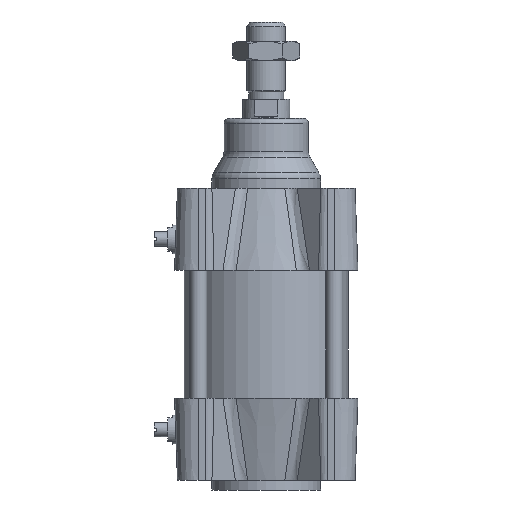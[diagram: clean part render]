
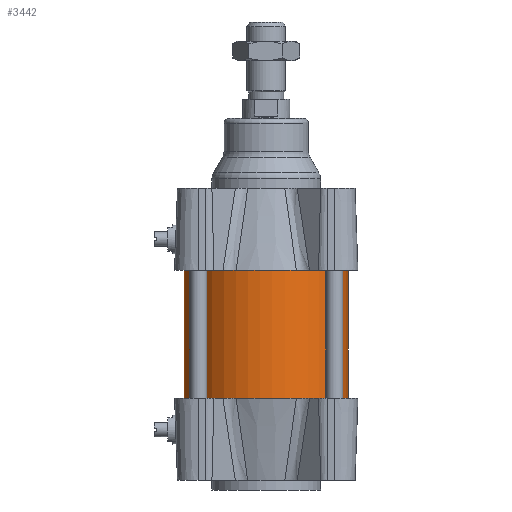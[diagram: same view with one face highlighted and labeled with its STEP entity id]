
A CAD part, front view. The second image highlights one B-rep face of the part: STEP entity #3442.
In plain terms, the highlighted cylindrical face has radius 34 mm (diameter 68 mm), a full revolution.
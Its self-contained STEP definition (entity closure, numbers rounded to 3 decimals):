
#805=FACE_BOUND('',#1156,.T.);
#919=FACE_OUTER_BOUND('',#1155,.T.);
#1155=EDGE_LOOP('',(#2522,#2523,#2524,#2525,#2526,#2527));
#1156=EDGE_LOOP('',(#2528,#2529,#2530,#2531,#2532,#2533));
#1447=CIRCLE('',#3715,34.);
#1448=CIRCLE('',#3716,34.);
#1449=CIRCLE('',#3717,34.);
#1450=CIRCLE('',#3718,34.);
#1451=CIRCLE('',#3719,34.);
#1452=CIRCLE('',#3720,34.);
#1453=CIRCLE('',#3721,34.);
#1454=CIRCLE('',#3722,34.);
#1455=CIRCLE('',#3723,34.);
#1456=CIRCLE('',#3724,34.);
#1457=CIRCLE('',#3725,34.);
#1458=CIRCLE('',#3726,34.);
#1638=VERTEX_POINT('',#5250);
#1639=VERTEX_POINT('',#5251);
#1640=VERTEX_POINT('',#5253);
#1641=VERTEX_POINT('',#5255);
#1642=VERTEX_POINT('',#5257);
#1643=VERTEX_POINT('',#5259);
#1644=VERTEX_POINT('',#5262);
#1645=VERTEX_POINT('',#5263);
#1646=VERTEX_POINT('',#5265);
#1647=VERTEX_POINT('',#5267);
#1648=VERTEX_POINT('',#5269);
#1649=VERTEX_POINT('',#5271);
#1983=EDGE_CURVE('',#1638,#1639,#1447,.T.);
#1984=EDGE_CURVE('',#1640,#1638,#1448,.T.);
#1985=EDGE_CURVE('',#1641,#1640,#1449,.T.);
#1986=EDGE_CURVE('',#1642,#1641,#1450,.T.);
#1987=EDGE_CURVE('',#1643,#1642,#1451,.T.);
#1988=EDGE_CURVE('',#1639,#1643,#1452,.T.);
#1989=EDGE_CURVE('',#1644,#1645,#1453,.T.);
#1990=EDGE_CURVE('',#1646,#1644,#1454,.T.);
#1991=EDGE_CURVE('',#1647,#1646,#1455,.T.);
#1992=EDGE_CURVE('',#1648,#1647,#1456,.T.);
#1993=EDGE_CURVE('',#1649,#1648,#1457,.T.);
#1994=EDGE_CURVE('',#1645,#1649,#1458,.T.);
#2522=ORIENTED_EDGE('',*,*,#1983,.F.);
#2523=ORIENTED_EDGE('',*,*,#1984,.F.);
#2524=ORIENTED_EDGE('',*,*,#1985,.F.);
#2525=ORIENTED_EDGE('',*,*,#1986,.F.);
#2526=ORIENTED_EDGE('',*,*,#1987,.F.);
#2527=ORIENTED_EDGE('',*,*,#1988,.F.);
#2528=ORIENTED_EDGE('',*,*,#1989,.F.);
#2529=ORIENTED_EDGE('',*,*,#1990,.F.);
#2530=ORIENTED_EDGE('',*,*,#1991,.F.);
#2531=ORIENTED_EDGE('',*,*,#1992,.F.);
#2532=ORIENTED_EDGE('',*,*,#1993,.F.);
#2533=ORIENTED_EDGE('',*,*,#1994,.F.);
#3384=CYLINDRICAL_SURFACE('',#3714,34.);
#3442=ADVANCED_FACE('',(#919,#805),#3384,.T.);
#3714=AXIS2_PLACEMENT_3D('',#5249,#4220,#4221);
#3715=AXIS2_PLACEMENT_3D('',#5252,#4222,#4223);
#3716=AXIS2_PLACEMENT_3D('',#5254,#4224,#4225);
#3717=AXIS2_PLACEMENT_3D('',#5256,#4226,#4227);
#3718=AXIS2_PLACEMENT_3D('',#5258,#4228,#4229);
#3719=AXIS2_PLACEMENT_3D('',#5260,#4230,#4231);
#3720=AXIS2_PLACEMENT_3D('',#5261,#4232,#4233);
#3721=AXIS2_PLACEMENT_3D('',#5264,#4234,#4235);
#3722=AXIS2_PLACEMENT_3D('',#5266,#4236,#4237);
#3723=AXIS2_PLACEMENT_3D('',#5268,#4238,#4239);
#3724=AXIS2_PLACEMENT_3D('',#5270,#4240,#4241);
#3725=AXIS2_PLACEMENT_3D('',#5272,#4242,#4243);
#3726=AXIS2_PLACEMENT_3D('',#5273,#4244,#4245);
#4220=DIRECTION('center_axis',(0.,0.,1.));
#4221=DIRECTION('ref_axis',(-1.,0.,0.));
#4222=DIRECTION('center_axis',(0.,0.,-1.));
#4223=DIRECTION('ref_axis',(-1.,0.,0.));
#4224=DIRECTION('center_axis',(0.,0.,-1.));
#4225=DIRECTION('ref_axis',(-1.,0.,0.));
#4226=DIRECTION('center_axis',(0.,0.,-1.));
#4227=DIRECTION('ref_axis',(-1.,0.,0.));
#4228=DIRECTION('center_axis',(0.,0.,-1.));
#4229=DIRECTION('ref_axis',(-1.,0.,0.));
#4230=DIRECTION('center_axis',(0.,0.,-1.));
#4231=DIRECTION('ref_axis',(-1.,0.,0.));
#4232=DIRECTION('center_axis',(0.,0.,-1.));
#4233=DIRECTION('ref_axis',(-1.,0.,0.));
#4234=DIRECTION('center_axis',(0.,0.,1.));
#4235=DIRECTION('ref_axis',(-1.,0.,0.));
#4236=DIRECTION('center_axis',(0.,0.,1.));
#4237=DIRECTION('ref_axis',(-1.,0.,0.));
#4238=DIRECTION('center_axis',(0.,0.,1.));
#4239=DIRECTION('ref_axis',(-1.,0.,0.));
#4240=DIRECTION('center_axis',(0.,0.,1.));
#4241=DIRECTION('ref_axis',(-1.,0.,0.));
#4242=DIRECTION('center_axis',(0.,0.,1.));
#4243=DIRECTION('ref_axis',(-1.,0.,0.));
#4244=DIRECTION('center_axis',(0.,0.,1.));
#4245=DIRECTION('ref_axis',(-1.,0.,0.));
#5249=CARTESIAN_POINT('Origin',(0.,0.,0.));
#5250=CARTESIAN_POINT('',(12.491,31.622,-26.5));
#5251=CARTESIAN_POINT('',(31.622,12.491,-26.5));
#5252=CARTESIAN_POINT('Origin',(0.,0.,-26.5));
#5253=CARTESIAN_POINT('',(-12.491,31.622,-26.5));
#5254=CARTESIAN_POINT('Origin',(0.,0.,-26.5));
#5255=CARTESIAN_POINT('',(-12.491,-31.622,-26.5));
#5256=CARTESIAN_POINT('Origin',(0.,0.,-26.5));
#5257=CARTESIAN_POINT('',(12.491,-31.622,-26.5));
#5258=CARTESIAN_POINT('Origin',(0.,0.,-26.5));
#5259=CARTESIAN_POINT('',(31.622,-12.491,-26.5));
#5260=CARTESIAN_POINT('Origin',(0.,0.,-26.5));
#5261=CARTESIAN_POINT('Origin',(0.,0.,-26.5));
#5262=CARTESIAN_POINT('',(12.491,-31.622,26.5));
#5263=CARTESIAN_POINT('',(31.622,-12.491,26.5));
#5264=CARTESIAN_POINT('Origin',(0.,0.,26.5));
#5265=CARTESIAN_POINT('',(-12.491,-31.622,26.5));
#5266=CARTESIAN_POINT('Origin',(0.,0.,26.5));
#5267=CARTESIAN_POINT('',(-12.491,31.622,26.5));
#5268=CARTESIAN_POINT('Origin',(0.,0.,26.5));
#5269=CARTESIAN_POINT('',(12.491,31.622,26.5));
#5270=CARTESIAN_POINT('Origin',(0.,0.,26.5));
#5271=CARTESIAN_POINT('',(31.622,12.491,26.5));
#5272=CARTESIAN_POINT('Origin',(0.,0.,26.5));
#5273=CARTESIAN_POINT('Origin',(0.,0.,26.5));
